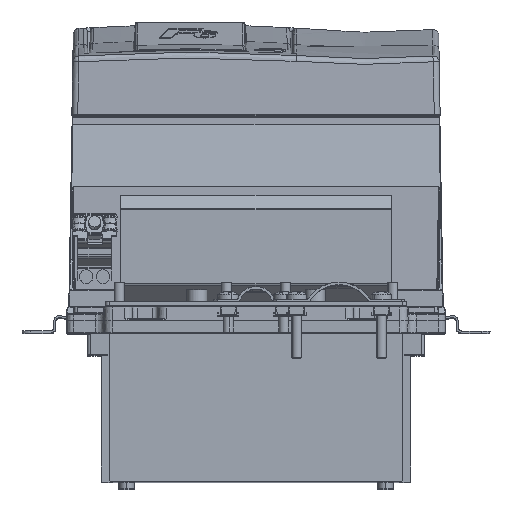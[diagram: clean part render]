
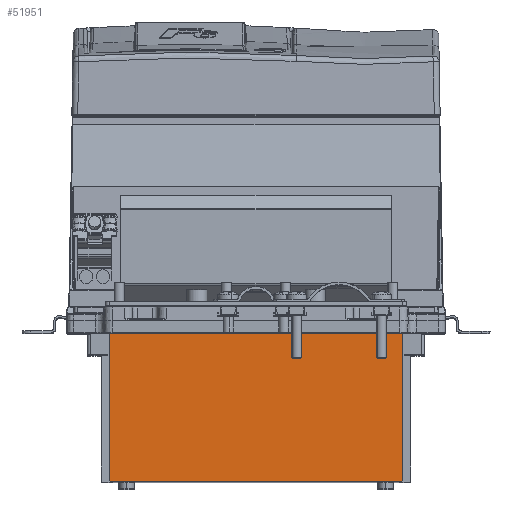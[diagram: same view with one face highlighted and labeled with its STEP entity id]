
A CAD part, top view. The second image highlights one B-rep face of the part: STEP entity #51951.
In plain terms, the highlighted planar face has unit normal (0, 0, 1).
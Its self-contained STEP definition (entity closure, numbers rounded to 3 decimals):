
#1582 = ORIENTED_EDGE ( 'NONE', *, *, #73625, .T. ) ;
#2012 = VERTEX_POINT ( 'NONE', #100728 ) ;
#2960 = CARTESIAN_POINT ( 'NONE',  ( -83., -73., 159. ) ) ;
#7716 = LINE ( 'NONE', #46468, #40829 ) ;
#10239 = AXIS2_PLACEMENT_3D ( 'NONE', #63461, #53331, #34865 ) ;
#12043 = VERTEX_POINT ( 'NONE', #33185 ) ;
#14546 = PLANE ( 'NONE',  #10239 ) ;
#15674 = EDGE_CURVE ( 'NONE', #12043, #83107, #96148, .T. ) ;
#16540 = EDGE_CURVE ( 'NONE', #2012, #123825, #7716, .T. ) ;
#21530 = LINE ( 'NONE', #74157, #65618 ) ;
#27482 = EDGE_CURVE ( 'NONE', #38116, #2012, #123984, .T. ) ;
#28542 = DIRECTION ( 'NONE',  ( 0., 0., 1. ) ) ;
#28613 = AXIS2_PLACEMENT_3D ( 'NONE', #116252, #28542, #36818 ) ;
#33185 = CARTESIAN_POINT ( 'NONE',  ( -85., 13., 159. ) ) ;
#34865 = DIRECTION ( 'NONE',  ( -1., 0., 0. ) ) ;
#36818 = DIRECTION ( 'NONE',  ( 1., 0., 0. ) ) ;
#38116 = VERTEX_POINT ( 'NONE', #45768 ) ;
#40829 = VECTOR ( 'NONE', #83323, 1000. ) ;
#42553 = ORIENTED_EDGE ( 'NONE', *, *, #15674, .T. ) ;
#43009 = EDGE_LOOP ( 'NONE', ( #42553, #80856, #120345, #95347, #94721, #1582 ) ) ;
#45768 = CARTESIAN_POINT ( 'NONE',  ( 87., -75., 159. ) ) ;
#46468 = CARTESIAN_POINT ( 'NONE',  ( 89., -73., 159. ) ) ;
#51951 = ADVANCED_FACE ( 'NONE', ( #102874 ), #14546, .T. ) ;
#53331 = DIRECTION ( 'NONE',  ( 0., 0., 1. ) ) ;
#54730 = EDGE_CURVE ( 'NONE', #83107, #66902, #76134, .T. ) ;
#57031 = VECTOR ( 'NONE', #74013, 1000. ) ;
#61429 = DIRECTION ( 'NONE',  ( 1., 0., 0. ) ) ;
#63461 = CARTESIAN_POINT ( 'NONE',  ( 87., 10., 159. ) ) ;
#65094 = EDGE_CURVE ( 'NONE', #66902, #38116, #21530, .T. ) ;
#65618 = VECTOR ( 'NONE', #111096, 1000. ) ;
#66902 = VERTEX_POINT ( 'NONE', #125307 ) ;
#73192 = CARTESIAN_POINT ( 'NONE',  ( 89., 13., 159. ) ) ;
#73625 = EDGE_CURVE ( 'NONE', #123825, #12043, #84156, .T. ) ;
#74013 = DIRECTION ( 'NONE',  ( -1., 0., 0. ) ) ;
#74157 = CARTESIAN_POINT ( 'NONE',  ( -83., -75., 159. ) ) ;
#75225 = VECTOR ( 'NONE', #83606, 1000. ) ;
#76134 = CIRCLE ( 'NONE', #110488, 2. ) ;
#76419 = CARTESIAN_POINT ( 'NONE',  ( -85., -73., 159. ) ) ;
#80456 = DIRECTION ( 'NONE',  ( 0., 0., 1. ) ) ;
#80856 = ORIENTED_EDGE ( 'NONE', *, *, #54730, .T. ) ;
#83107 = VERTEX_POINT ( 'NONE', #122170 ) ;
#83323 = DIRECTION ( 'NONE',  ( 0., 1., 0. ) ) ;
#83606 = DIRECTION ( 'NONE',  ( 0., -1., 0. ) ) ;
#84156 = LINE ( 'NONE', #93763, #57031 ) ;
#93763 = CARTESIAN_POINT ( 'NONE',  ( 89., 13., 159. ) ) ;
#94721 = ORIENTED_EDGE ( 'NONE', *, *, #16540, .T. ) ;
#95347 = ORIENTED_EDGE ( 'NONE', *, *, #27482, .T. ) ;
#96148 = LINE ( 'NONE', #76419, #75225 ) ;
#100728 = CARTESIAN_POINT ( 'NONE',  ( 89., -73., 159. ) ) ;
#102874 = FACE_OUTER_BOUND ( 'NONE', #43009, .T. ) ;
#110488 = AXIS2_PLACEMENT_3D ( 'NONE', #2960, #80456, #61429 ) ;
#111096 = DIRECTION ( 'NONE',  ( 1., 0., 0. ) ) ;
#116252 = CARTESIAN_POINT ( 'NONE',  ( 87., -73., 159. ) ) ;
#120345 = ORIENTED_EDGE ( 'NONE', *, *, #65094, .T. ) ;
#122170 = CARTESIAN_POINT ( 'NONE',  ( -85., -73., 159. ) ) ;
#123825 = VERTEX_POINT ( 'NONE', #73192 ) ;
#123984 = CIRCLE ( 'NONE', #28613, 2. ) ;
#125307 = CARTESIAN_POINT ( 'NONE',  ( -83., -75., 159. ) ) ;
